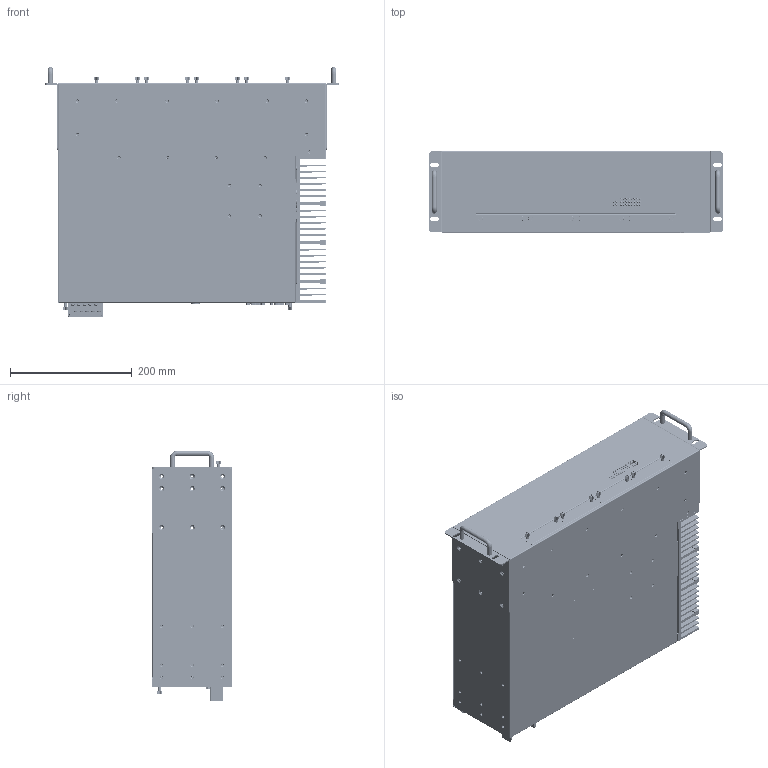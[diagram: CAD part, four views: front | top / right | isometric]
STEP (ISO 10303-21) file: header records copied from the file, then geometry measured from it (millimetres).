
FILE_DESCRIPTION((''),'2;1');
FILE_NAME('DA-820_SYSTEM-ASSEMBLY','2014-09-03T',('Justin_Huang'),(''),'PRO/ENGINEER BY PARAMETRIC TECHNOLOGY CORPORATION, 2013230','PRO/ENGINEER BY PARAMETRIC TECHNOLOGY CORPORATION, 2013230','');
FILE_SCHEMA(('AUTOMOTIVE_DESIGN { 1 0 10303 214 1 1 1 1 }'));
Products named in the file (1): DA-820_SYSTEM-ASSEMBLY
Bounding box: 483 x 133 x 410.8 mm (x, y, z)
Volume: 1963750.2 mm3; surface area: 1932245.9 mm2
Topology: 55 solids, 72 shells, 16651 faces, 42210 edges, 26462 vertices
Faces by surface type: plane 9815, cylinder 4039, cone 1811, torus 410, bspline 397, sphere 174, revolution 5
Entity records: 633298 total; most frequent: CARTESIAN_POINT 150728, ORIENTED_EDGE 84062, DIRECTION 80667, EDGE_CURVE 42031, AXIS2_PLACEMENT_3D 27117, VERTEX_POINT 26462, VECTOR 26428, LINE 26428
